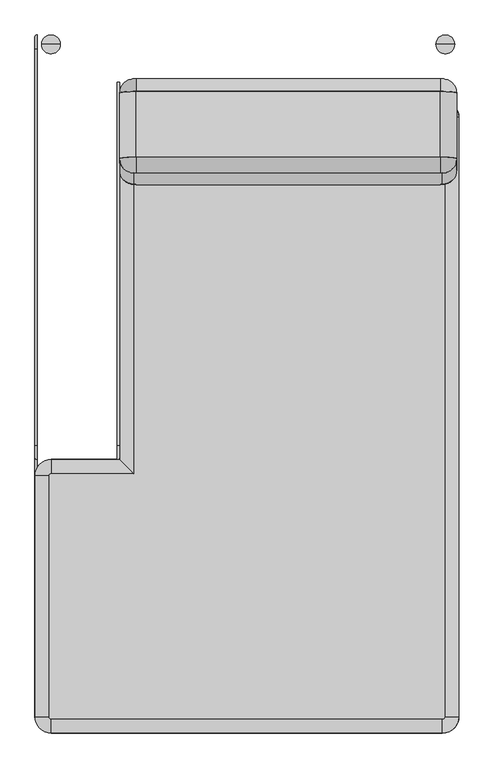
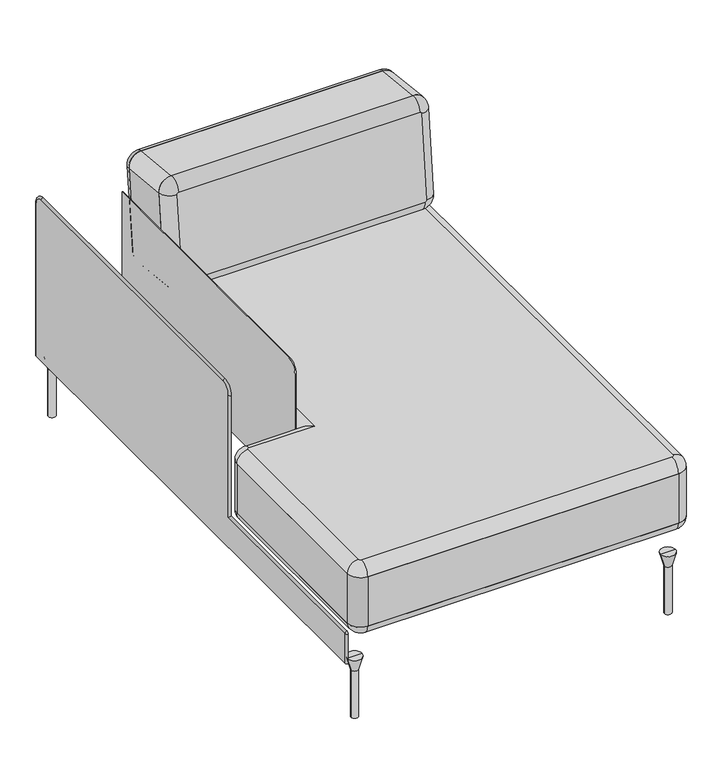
"""IFC4 building model written with IfcOpenShell, lengths in millimetres: furniture geometry, Sofa_Bensen_Neo_NEO15LIT : Sofa_Bensen_Neo_NEO15LIT."""

from ifc_helpers import new_model, si_unit, point, frame, frame_2d, origin, place, context, project, spatial, polyline, circle_curve, ellipse_curve, trimmed, segment, composite_curve, outline, extrude, source, transform, mapped, element, save
from ifc_brep_helpers import plane_surface, cylinder_surface, revolved_surface, advanced_brep


def furniture_818bd36a(model_context):
    return source(origin(), model_context, "Body", "SolidModel", [
        advanced_brep(
        [(-240.0000001, -479.9987249, 259.4004127), (-270.0000001, -449.9987249, 289.4004127), (-270.0000001, 275.0012751, 289.4004127), (-240.0000001, 275.0012751, 259.4004127), (-420.0000001, -994.9987249, 259.4004127), (-450.0000001, -994.9987249, 289.4004127), (-450.0000001, -484.9987249, 289.4004127), (-420.0000001, -484.9987249, 259.4004127), (-415.0000001, -449.9987249, 289.4004127), (-415.0000001, -479.9987249, 259.4004127), (419.9999999, 275.0012751, 259.4004127), (449.9999999, 275.0012751, 289.4004127), (449.9999999, -994.9987249, 289.4004127), (419.9999999, -994.9987249, 259.4004127), (-235.0000001, 310.0012751, 289.4004127), (-235.0000001, 280.0012751, 259.4004127), (414.9999999, 310.0012751, 289.4004127), (414.9999999, 280.0012751, 259.4004127), (414.9999999, -1029.9987249, 289.4004127), (414.9999999, -999.9987249, 259.4004127), (-415.0000001, -1029.9987249, 289.4004127), (-415.0000001, -999.9987249, 259.4004127)],
        [
            (0, 1, ellipse_curve(frame((-240.0000001, -479.9987249, 289.4004127), z_axis=(0.7071067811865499, 0.707106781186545, 0.0), x_axis=(0.7071067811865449, -0.70710678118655, 0.0)), 42.4264069, 30.0)),
            (1, 2),
            (2, 3, circle_curve(frame((-240.0000001, 275.0012751, 289.4004127), z_axis=(0.0, -1.0, 0.0), x_axis=(-1.0, 0.0, 0.0)), 30.0)),
            (3, 0),
            (4, 5, circle_curve(frame((-420.0000001, -994.9987249, 289.4004127), z_axis=(0.0, 1.0, 0.0), x_axis=(-1.0, 0.0, 0.0)), 30.0)),
            (5, 6),
            (6, 7, circle_curve(frame((-420.0000001, -484.9987249, 289.4004127), z_axis=(0.0, -1.0, 0.0), x_axis=(-1.0, 0.0, 0.0)), 30.0)),
            (7, 4),
            (6, 8, circle_curve(frame((-415.0000001, -484.9987249, 289.4004127), z_axis=(0.0, 0.0, -1.0), x_axis=(-1.0, 0.0, 0.0)), 35.0)),
            (8, 9, circle_curve(frame((-415.0000001, -479.9987249, 289.4004127), z_axis=(-1.0, 0.0, 0.0), x_axis=(0.0, 1.0, 0.0)), 30.0)),
            (9, 7, circle_curve(frame((-415.0000001, -484.9987249, 259.4004127), z_axis=(0.0, 0.0, 1.0), x_axis=(-1.0, 0.0, 0.0)), 5.0)),
            (0, 9),
            (8, 1),
            (10, 11, circle_curve(frame((419.9999999, 275.0012751, 289.4004127), z_axis=(0.0, -1.0, 0.0), x_axis=(1.0, 0.0, 0.0)), 30.0)),
            (11, 12),
            (12, 13, circle_curve(frame((419.9999999, -994.9987249, 289.4004127), z_axis=(0.0, 1.0, 0.0), x_axis=(1.0, 0.0, 0.0)), 30.0)),
            (13, 10),
            (2, 14, circle_curve(frame((-235.0000001, 275.0012751, 289.4004127), z_axis=(0.0, 0.0, -1.0), x_axis=(-1.0, 0.0, 0.0)), 35.0)),
            (14, 15, circle_curve(frame((-235.0000001, 280.0012751, 289.4004127), z_axis=(-1.0, 0.0, 0.0), x_axis=(0.0, 1.0, 0.0)), 30.0)),
            (15, 3, circle_curve(frame((-235.0000001, 275.0012751, 259.4004127), z_axis=(0.0, 0.0, 1.0), x_axis=(-1.0, 0.0, 0.0)), 5.0)),
            (14, 16),
            (16, 17, circle_curve(frame((414.9999999, 280.0012751, 289.4004127), z_axis=(-1.0, 0.0, 0.0), x_axis=(0.0, 1.0, 0.0)), 30.0)),
            (17, 15),
            (10, 17, circle_curve(frame((414.9999999, 275.0012751, 259.4004127), z_axis=(0.0, 0.0, 1.0), x_axis=(0.0, 1.0, 0.0)), 5.0)),
            (16, 11, circle_curve(frame((414.9999999, 275.0012751, 289.4004127), z_axis=(0.0, 0.0, -1.0), x_axis=(0.0, 1.0, 0.0)), 35.0)),
            (12, 18, circle_curve(frame((414.9999999, -994.9987249, 289.4004127), z_axis=(0.0, 0.0, -1.0), x_axis=(1.0, 0.0, 0.0)), 35.0)),
            (18, 19, circle_curve(frame((414.9999999, -999.9987249, 289.4004127), z_axis=(1.0, 0.0, 0.0), x_axis=(0.0, -1.0, 0.0)), 30.0)),
            (19, 13, circle_curve(frame((414.9999999, -994.9987249, 259.4004127), z_axis=(0.0, 0.0, 1.0), x_axis=(1.0, 0.0, 0.0)), 5.0)),
            (18, 20),
            (20, 21, circle_curve(frame((-415.0000001, -999.9987249, 289.4004127), z_axis=(1.0, 0.0, 0.0), x_axis=(0.0, -1.0, 0.0)), 30.0)),
            (21, 19),
            (4, 21, circle_curve(frame((-415.0000001, -994.9987249, 259.4004127), z_axis=(0.0, 0.0, 1.0), x_axis=(0.0, -1.0, 0.0)), 5.0)),
            (20, 5, circle_curve(frame((-415.0000001, -994.9987249, 289.4004127), z_axis=(0.0, 0.0, -1.0), x_axis=(0.0, -1.0, 0.0)), 35.0)),
        ],
        [
            cylinder_surface(frame((-240.0000001, -449.9987249, 289.4004127), z_axis=(0.0, -1.0, 0.0), x_axis=(-1.0, 0.0, 0.0)), 30.0),
            cylinder_surface(frame((-420.0000001, -994.9987249, 289.4004127), z_axis=(0.0, -1.0, 0.0), x_axis=(-1.0, 0.0, 0.0)), 30.0),
            revolved_surface(trimmed(ellipse_curve(frame((-420.0000001, -484.9987249, 289.4004127), z_axis=(0.0, -1.0, 0.0), x_axis=(-1.0, 0.0, 0.0)), 30.0, 30.0), [point((-450.0000001, -484.9987249, 289.4004127))], [point((-420.0000001, -484.9987249, 259.4004127))], True, "CARTESIAN"), (-415.0000001, -484.9987249, 459.4004127), (0.0, 0.0, -1.0)),
            cylinder_surface(frame((-415.0000001, -479.9987249, 289.4004127), z_axis=(-1.0, 0.0, 0.0), x_axis=(0.0, 1.0, 0.0)), 30.0),
            cylinder_surface(frame((419.9999999, 275.0012751, 289.4004127), z_axis=(0.0, 1.0, 0.0), x_axis=(1.0, 0.0, 0.0)), 30.0),
            revolved_surface(trimmed(ellipse_curve(frame((-240.0000001, 275.0012751, 289.4004127), z_axis=(0.0, -1.0, 0.0), x_axis=(-1.0, 0.0, 0.0)), 30.0, 30.0), [point((-270.0000001, 275.0012751, 289.4004127))], [point((-240.0000001, 275.0012751, 259.4004127))], True, "CARTESIAN"), (-235.0000001, 275.0012751, 459.4004127), (0.0, 0.0, -1.0)),
            cylinder_surface(frame((-235.0000001, 280.0012751, 289.4004127), z_axis=(-1.0, 0.0, 0.0), x_axis=(0.0, 1.0, 0.0)), 30.0),
            revolved_surface(trimmed(ellipse_curve(frame((414.9999999, 280.0012751, 289.4004127), z_axis=(-1.0, 0.0, 0.0), x_axis=(0.0, 1.0, 0.0)), 30.0, 30.0), [point((414.9999999, 310.0012751, 289.4004127))], [point((414.9999999, 280.0012751, 259.4004127))], True, "CARTESIAN"), (414.9999999, 275.0012751, 459.4004127), (0.0, 0.0, -1.0)),
            revolved_surface(trimmed(ellipse_curve(frame((419.9999999, -994.9987249, 289.4004127), z_axis=(0.0, 1.0, 0.0), x_axis=(1.0, 0.0, 0.0)), 30.0, 30.0), [point((449.9999999, -994.9987249, 289.4004127))], [point((419.9999999, -994.9987249, 259.4004127))], True, "CARTESIAN"), (414.9999999, -994.9987249, 459.4004127), (0.0, 0.0, -1.0)),
            cylinder_surface(frame((414.9999999, -999.9987249, 289.4004127), z_axis=(1.0, 0.0, 0.0), x_axis=(0.0, -1.0, 0.0)), 30.0),
            revolved_surface(trimmed(ellipse_curve(frame((-415.0000001, -999.9987249, 289.4004127), z_axis=(1.0, 0.0, 0.0), x_axis=(0.0, -1.0, 0.0)), 30.0, 30.0), [point((-415.0000001, -1029.9987249, 289.4004127))], [point((-415.0000001, -999.9987249, 259.4004127))], True, "CARTESIAN"), (-415.0000001, -994.9987249, 459.4004127), (0.0, 0.0, -1.0)),
            plane_surface(frame((-415.0000001, -994.9987249, 289.4004127), z_axis=(0.0, 0.0, 1.0), x_axis=(0.0, -1.0, 0.0))),
            plane_surface(frame((-235.0000001, 270.0012751, 259.4004127), z_axis=(0.0, 0.0, -1.0), x_axis=(-1.0, 0.0, 0.0))),
        ],
        [
            (0, [[1, 2, 3, 4]]),
            (1, [[5, 6, 7, 8]]),
            (2, [[-7, 9, 10, 11]]),
            (3, [[-1, 12, -10, 13]]),
            (4, [[14, 15, 16, 17]]),
            (5, [[-3, 18, 19, 20]]),
            (6, [[-19, 21, 22, 23]]),
            (7, [[-14, 24, -22, 25]]),
            (8, [[-16, 26, 27, 28]]),
            (9, [[-27, 29, 30, 31]]),
            (10, [[-5, 32, -30, 33]]),
            (11, [[-2, -13, -9, -6, -33, -29, -26, -15, -25, -21, -18]]),
            (12, [[-4, -20, -23, -24, -17, -28, -31, -32, -8, -11, -12]]),
        ],
    ),
        advanced_brep(
        [(-270.0000001, -449.9987249, 429.4004127), (-240.0000001, -479.9987249, 459.4004127), (-240.0000001, 275.0012751, 459.4004127), (-270.0000001, 275.0012751, 429.4004127), (-415.0000001, -479.9987249, 459.4004127), (-420.0000001, -484.9987249, 459.4004127), (-420.0000001, -994.9987249, 459.4004127), (-415.0000001, -999.9987249, 459.4004127), (414.9999999, -999.9987249, 459.4004127), (419.9999999, -994.9987249, 459.4004127), (419.9999999, 275.0012751, 459.4004127), (414.9999999, 280.0012751, 459.4004127), (-235.0000001, 280.0012751, 459.4004127), (-450.0000001, -994.9987249, 429.4004127), (-450.0000001, -484.9987249, 429.4004127), (-415.0000001, -449.9987249, 429.4004127), (449.9999999, 275.0012751, 429.4004127), (449.9999999, -994.9987249, 429.4004127), (-235.0000001, 310.0012751, 429.4004127), (414.9999999, 310.0012751, 429.4004127), (414.9999999, -1029.9987249, 429.4004127), (-415.0000001, -1029.9987249, 429.4004127)],
        [
            (0, 1, ellipse_curve(frame((-240.0000001, -479.9987249, 429.4004127), z_axis=(0.7071067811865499, 0.707106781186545, 0.0), x_axis=(0.7071067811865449, -0.70710678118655, 0.0)), 42.4264069, 30.0)),
            (1, 2),
            (2, 3, circle_curve(frame((-240.0000001, 275.0012751, 429.4004127), z_axis=(0.0, -1.0, 0.0), x_axis=(-1.0, 0.0, 0.0)), 30.0)),
            (3, 0),
            (1, 4),
            (4, 5, circle_curve(frame((-415.0000001, -484.9987249, 459.4004127), z_axis=(0.0, 0.0, 1.0), x_axis=(-1.0, 0.0, 0.0)), 5.0)),
            (5, 6),
            (6, 7, circle_curve(frame((-415.0000001, -994.9987249, 459.4004127), z_axis=(0.0, 0.0, 1.0), x_axis=(0.0, -1.0, 0.0)), 5.0)),
            (7, 8),
            (8, 9, circle_curve(frame((414.9999999, -994.9987249, 459.4004127), z_axis=(0.0, 0.0, 1.0), x_axis=(1.0, 0.0, 0.0)), 5.0)),
            (9, 10),
            (10, 11, circle_curve(frame((414.9999999, 275.0012751, 459.4004127), z_axis=(0.0, 0.0, 1.0), x_axis=(0.0, 1.0, 0.0)), 5.0)),
            (11, 12),
            (12, 2, circle_curve(frame((-235.0000001, 275.0012751, 459.4004127), z_axis=(0.0, 0.0, 1.0), x_axis=(-1.0, 0.0, 0.0)), 5.0)),
            (13, 6, circle_curve(frame((-420.0000001, -994.9987249, 429.4004127), z_axis=(0.0, 1.0, 0.0), x_axis=(-1.0, 0.0, 0.0)), 30.0)),
            (5, 14, circle_curve(frame((-420.0000001, -484.9987249, 429.4004127), z_axis=(0.0, -1.0, 0.0), x_axis=(-1.0, 0.0, 0.0)), 30.0)),
            (14, 13),
            (4, 15, circle_curve(frame((-415.0000001, -479.9987249, 429.4004127), z_axis=(-1.0, 0.0, 0.0), x_axis=(0.0, 1.0, 0.0)), 30.0)),
            (15, 14, circle_curve(frame((-415.0000001, -484.9987249, 429.4004127), z_axis=(0.0, 0.0, 1.0), x_axis=(-1.0, 0.0, 0.0)), 35.0)),
            (0, 15),
            (16, 10, circle_curve(frame((419.9999999, 275.0012751, 429.4004127), z_axis=(0.0, -1.0, 0.0), x_axis=(1.0, 0.0, 0.0)), 30.0)),
            (9, 17, circle_curve(frame((419.9999999, -994.9987249, 429.4004127), z_axis=(0.0, 1.0, 0.0), x_axis=(1.0, 0.0, 0.0)), 30.0)),
            (17, 16),
            (12, 18, circle_curve(frame((-235.0000001, 280.0012751, 429.4004127), z_axis=(-1.0, 0.0, 0.0), x_axis=(0.0, 1.0, 0.0)), 30.0)),
            (18, 3, circle_curve(frame((-235.0000001, 275.0012751, 429.4004127), z_axis=(0.0, 0.0, 1.0), x_axis=(-1.0, 0.0, 0.0)), 35.0)),
            (11, 19, circle_curve(frame((414.9999999, 280.0012751, 429.4004127), z_axis=(-1.0, 0.0, 0.0), x_axis=(0.0, 1.0, 0.0)), 30.0)),
            (19, 18),
            (16, 19, circle_curve(frame((414.9999999, 275.0012751, 429.4004127), z_axis=(0.0, 0.0, 1.0), x_axis=(0.0, 1.0, 0.0)), 35.0)),
            (8, 20, circle_curve(frame((414.9999999, -999.9987249, 429.4004127), z_axis=(1.0, 0.0, 0.0), x_axis=(0.0, -1.0, 0.0)), 30.0)),
            (20, 17, circle_curve(frame((414.9999999, -994.9987249, 429.4004127), z_axis=(0.0, 0.0, 1.0), x_axis=(1.0, 0.0, 0.0)), 35.0)),
            (7, 21, circle_curve(frame((-415.0000001, -999.9987249, 429.4004127), z_axis=(1.0, 0.0, 0.0), x_axis=(0.0, -1.0, 0.0)), 30.0)),
            (21, 20),
            (13, 21, circle_curve(frame((-415.0000001, -994.9987249, 429.4004127), z_axis=(0.0, 0.0, 1.0), x_axis=(0.0, -1.0, 0.0)), 35.0)),
        ],
        [
            cylinder_surface(frame((-240.0000001, -449.9987249, 429.4004127), z_axis=(0.0, -1.0, 0.0), x_axis=(-1.0, 0.0, 0.0)), 30.0),
            plane_surface(frame((-230.0000001, 275.0012751, 459.4004127), z_axis=(0.0, 0.0, 1.0), x_axis=(0.0, 1.0, 0.0))),
            cylinder_surface(frame((-420.0000001, -994.9987249, 429.4004127), z_axis=(0.0, -1.0, 0.0), x_axis=(-1.0, 0.0, 0.0)), 30.0),
            revolved_surface(trimmed(ellipse_curve(frame((-420.0000001, -484.9987249, 429.4004127), z_axis=(0.0, -1.0, 0.0), x_axis=(-1.0, 0.0, 0.0)), 30.0, 30.0), [point((-420.0000001, -484.9987249, 459.4004127))], [point((-450.0000001, -484.9987249, 429.4004127))], True, "CARTESIAN"), (-415.0000001, -484.9987249, 259.4004127), (0.0, 0.0, -1.0)),
            cylinder_surface(frame((-415.0000001, -479.9987249, 429.4004127), z_axis=(-1.0, 0.0, 0.0), x_axis=(0.0, 1.0, 0.0)), 30.0),
            cylinder_surface(frame((419.9999999, 275.0012751, 429.4004127), z_axis=(0.0, 1.0, 0.0), x_axis=(1.0, 0.0, 0.0)), 30.0),
            revolved_surface(trimmed(ellipse_curve(frame((-240.0000001, 275.0012751, 429.4004127), z_axis=(0.0, -1.0, 0.0), x_axis=(-1.0, 0.0, 0.0)), 30.0, 30.0), [point((-240.0000001, 275.0012751, 459.4004127))], [point((-270.0000001, 275.0012751, 429.4004127))], True, "CARTESIAN"), (-235.0000001, 275.0012751, 259.4004127), (0.0, 0.0, -1.0)),
            cylinder_surface(frame((-235.0000001, 280.0012751, 429.4004127), z_axis=(-1.0, 0.0, 0.0), x_axis=(0.0, 1.0, 0.0)), 30.0),
            revolved_surface(trimmed(ellipse_curve(frame((414.9999999, 280.0012751, 429.4004127), z_axis=(-1.0, 0.0, 0.0), x_axis=(0.0, 1.0, 0.0)), 30.0, 30.0), [point((414.9999999, 280.0012751, 459.4004127))], [point((414.9999999, 310.0012751, 429.4004127))], True, "CARTESIAN"), (414.9999999, 275.0012751, 259.4004127), (0.0, 0.0, -1.0)),
            revolved_surface(trimmed(ellipse_curve(frame((419.9999999, -994.9987249, 429.4004127), z_axis=(0.0, 1.0, 0.0), x_axis=(1.0, 0.0, 0.0)), 30.0, 30.0), [point((419.9999999, -994.9987249, 459.4004127))], [point((449.9999999, -994.9987249, 429.4004127))], True, "CARTESIAN"), (414.9999999, -994.9987249, 259.4004127), (0.0, 0.0, -1.0)),
            cylinder_surface(frame((414.9999999, -999.9987249, 429.4004127), z_axis=(1.0, 0.0, 0.0), x_axis=(0.0, -1.0, 0.0)), 30.0),
            revolved_surface(trimmed(ellipse_curve(frame((-415.0000001, -999.9987249, 429.4004127), z_axis=(1.0, 0.0, 0.0), x_axis=(0.0, -1.0, 0.0)), 30.0, 30.0), [point((-415.0000001, -999.9987249, 459.4004127))], [point((-415.0000001, -1029.9987249, 429.4004127))], True, "CARTESIAN"), (-415.0000001, -994.9987249, 259.4004127), (0.0, 0.0, -1.0)),
            plane_surface(frame((-415.0000001, -994.9987249, 429.4004127), z_axis=(0.0, 0.0, -1.0), x_axis=(0.0, -1.0, 0.0))),
        ],
        [
            (0, [[1, 2, 3, 4]]),
            (1, [[-2, 5, 6, 7, 8, 9, 10, 11, 12, 13, 14]]),
            (2, [[15, -7, 16, 17]]),
            (3, [[-16, -6, 18, 19]]),
            (4, [[-1, 20, -18, -5]]),
            (5, [[21, -11, 22, 23]]),
            (6, [[-3, -14, 24, 25]]),
            (7, [[-24, -13, 26, 27]]),
            (8, [[-21, 28, -26, -12]]),
            (9, [[-22, -10, 29, 30]]),
            (10, [[-29, -9, 31, 32]]),
            (11, [[-15, 33, -31, -8]]),
            (12, [[-4, -25, -27, -28, -23, -30, -32, -33, -17, -19, -20]]),
        ],
    ),
        extrude(outline(composite_curve([segment(polyline([(-235.0000001, 310.0012751), (414.9999999, 310.0012751)]), True, "CONTINUOUS"), segment(trimmed(circle_curve(frame_2d((414.9999999, 275.0012751)), 35.0), [point((414.9999999, 310.0012751))], [point((449.9999999, 275.0012751))], False, "CARTESIAN"), True, "CONTINUOUS"), segment(polyline([(449.9999999, 275.0012751), (449.9999999, -994.9987249)]), True, "CONTINUOUS"), segment(trimmed(circle_curve(frame_2d((414.9999999, -994.9987249)), 35.0), [point((449.9999999, -994.9987249))], [point((414.9999999, -1029.9987249))], False, "CARTESIAN"), True, "CONTINUOUS"), segment(polyline([(414.9999999, -1029.9987249), (-415.0000001, -1029.9987249)]), True, "CONTINUOUS"), segment(trimmed(circle_curve(frame_2d((-415.0000001, -994.9987249)), 35.0), [point((-415.0000001, -1029.9987249))], [point((-450.0000001, -994.9987249))], False, "CARTESIAN"), True, "CONTINUOUS"), segment(polyline([(-450.0000001, -994.9987249), (-450.0000001, -484.9987249)]), True, "CONTINUOUS"), segment(trimmed(circle_curve(frame_2d((-415.0000001, -484.9987249)), 35.0), [point((-450.0000001, -484.9987249))], [point((-415.0000001, -449.9987249))], False, "CARTESIAN"), True, "CONTINUOUS"), segment(polyline([(-415.0000001, -449.9987249), (-270.0000001, -449.9987249), (-270.0000001, 275.0012751)]), True, "CONTINUOUS"), segment(trimmed(circle_curve(frame_2d((-235.0000001, 275.0012751)), 35.0), [point((-270.0000001, 275.0012751))], [point((-235.0000001, 310.0012751))], False, "CARTESIAN"), True, "CONTINUOUS")], self_intersect=False)), frame((0.0, 0.0, 289.4004127), z_axis=(0.0, 0.0, 1.0), x_axis=(1.0, 0.0, 0.0)), (0.0, 0.0, 1.0), 140.0),
        advanced_brep(
        [(421.0275996, -970.0263245, 0.0), (411.1832689, -970.0263245, 0.0), (430.8719303, -970.0263245, 0.0), (401.0551992, -970.0263245, 170.0), (421.0275996, -970.0263245, 170.0), (441.0, -970.0263245, 170.0), (411.1832689, -970.0263245, 133.7982678), (430.8719303, -970.0263245, 133.7982678)],
        [
            (0, 1),
            (1, 2, circle_curve(frame((421.0275996, -970.0263245, 0.0), z_axis=(0.0, 0.0, -1.0), x_axis=(1.0, 0.0, 0.0)), 9.8443307)),
            (2, 0),
            (2, 1, circle_curve(frame((421.0275996, -970.0263245, 0.0), z_axis=(0.0, 0.0, -1.0), x_axis=(1.0, 0.0, 0.0)), 9.8443307)),
            (3, 4),
            (4, 5),
            (5, 3, circle_curve(frame((421.0275996, -970.0263245, 170.0), z_axis=(0.0, 0.0, 1.0), x_axis=(1.0, 0.0, 0.0)), 19.9724004)),
            (3, 5, circle_curve(frame((421.0275996, -970.0263245, 170.0), z_axis=(0.0, 0.0, 1.0), x_axis=(1.0, 0.0, 0.0)), 19.9724004)),
            (6, 3),
            (5, 7),
            (7, 6, circle_curve(frame((421.0275996, -970.0263245, 133.7982678), z_axis=(0.0, 0.0, 1.0), x_axis=(1.0, 0.0, 0.0)), 9.8443307)),
            (6, 7, circle_curve(frame((421.0275996, -970.0263245, 133.7982678), z_axis=(0.0, 0.0, 1.0), x_axis=(1.0, 0.0, 0.0)), 9.8443307)),
            (1, 6),
            (7, 2),
        ],
        [
            plane_surface(frame((421.0275996, -970.0263245, 0.0), z_axis=(0.0, 0.0, -1.0), x_axis=(1.0, 0.0, 0.0))),
            plane_surface(frame((421.0275996, -970.0263245, 170.0), z_axis=(0.0, 0.0, 1.0), x_axis=(1.0, 0.0, 0.0))),
            revolved_surface(polyline([(441.0, -970.0263245, 170.0), (430.8719303, -970.0263245, 133.7982678)]), (421.0275996, -970.0263245, 210.0), (0.0, 0.0, -1.0)),
            cylinder_surface(frame((421.0275996, -970.0263245, 210.0), z_axis=(0.0, 0.0, -1.0), x_axis=(1.0, 0.0, 0.0)), 9.8443307),
        ],
        [
            (0, [[1, 2, 3]]),
            (0, [[-3, 4, -1]]),
            (1, [[5, 6, 7]]),
            (1, [[-6, -5, 8]]),
            (2, [[9, -7, 10, 11]]),
            (2, [[-10, -8, -9, 12]]),
            (3, [[13, -11, 14, -2]]),
            (3, [[-14, -12, -13, -4]]),
        ],
    ),
        advanced_brep(
        [(-416.0275996, -970.0263245, 0.0), (-425.8719303, -970.0263245, 0.0), (-406.1832689, -970.0263245, 0.0), (-396.0551992, -970.0263245, 170.0), (-436.0, -970.0263245, 170.0), (-416.0275996, -970.0263245, 170.0), (-406.1832689, -970.0263245, 133.7982678), (-425.8719303, -970.0263245, 133.7982678)],
        [
            (0, 1),
            (1, 2, circle_curve(frame((-416.0275996, -970.0263245, 0.0), z_axis=(0.0, 0.0, -1.0), x_axis=(-1.0, 0.0, 0.0)), 9.8443307)),
            (2, 0),
            (2, 1, circle_curve(frame((-416.0275996, -970.0263245, 0.0), z_axis=(0.0, 0.0, -1.0), x_axis=(-1.0, 0.0, 0.0)), 9.8443307)),
            (3, 4, circle_curve(frame((-416.0275996, -970.0263245, 170.0), z_axis=(0.0, 0.0, 1.0), x_axis=(-1.0, 0.0, 0.0)), 19.9724004)),
            (4, 5),
            (5, 3),
            (4, 3, circle_curve(frame((-416.0275996, -970.0263245, 170.0), z_axis=(0.0, 0.0, 1.0), x_axis=(-1.0, 0.0, 0.0)), 19.9724004)),
            (6, 7, circle_curve(frame((-416.0275996, -970.0263245, 133.7982678), z_axis=(0.0, 0.0, 1.0), x_axis=(-1.0, 0.0, 0.0)), 9.8443307)),
            (7, 4),
            (3, 6),
            (7, 6, circle_curve(frame((-416.0275996, -970.0263245, 133.7982678), z_axis=(0.0, 0.0, 1.0), x_axis=(-1.0, 0.0, 0.0)), 9.8443307)),
            (1, 7),
            (6, 2),
        ],
        [
            plane_surface(frame((-416.0275996, -970.0263245, 0.0), z_axis=(0.0, 0.0, -1.0), x_axis=(-1.0, 0.0, 0.0))),
            plane_surface(frame((-416.0275996, -970.0263245, 170.0), z_axis=(0.0, 0.0, 1.0), x_axis=(-1.0, 0.0, 0.0))),
            revolved_surface(polyline([(-436.0, -970.0263245, 170.0), (-425.8719303, -970.0263245, 133.7982678)]), (-416.0275996, -970.0263245, 210.0), (0.0, 0.0, -1.0)),
            cylinder_surface(frame((-416.0275996, -970.0263245, 210.0), z_axis=(0.0, 0.0, -1.0), x_axis=(-1.0, 0.0, 0.0)), 9.8443307),
        ],
        [
            (0, [[1, 2, 3]]),
            (0, [[-3, 4, -1]]),
            (1, [[5, 6, 7]]),
            (1, [[8, -7, -6]]),
            (2, [[9, 10, -5, 11]]),
            (2, [[12, -11, -8, -10]]),
            (3, [[-2, 13, -9, 14]]),
            (3, [[-4, -14, -12, -13]]),
        ],
    ),
        advanced_brep(
        [(421.0275996, 430.0263245, 0.0), (430.8719303, 430.0263245, 0.0), (411.1832689, 430.0263245, 0.0), (401.0551992, 430.0263245, 170.0), (441.0, 430.0263245, 170.0), (421.0275996, 430.0263245, 170.0), (411.1832689, 430.0263245, 133.7982678), (430.8719303, 430.0263245, 133.7982678)],
        [
            (0, 1),
            (1, 2, circle_curve(frame((421.0275996, 430.0263245, 0.0), z_axis=(0.0, 0.0, -1.0), x_axis=(1.0, 0.0, 0.0)), 9.8443307)),
            (2, 0),
            (2, 1, circle_curve(frame((421.0275996, 430.0263245, 0.0), z_axis=(0.0, 0.0, -1.0), x_axis=(1.0, 0.0, 0.0)), 9.8443307)),
            (3, 4, circle_curve(frame((421.0275996, 430.0263245, 170.0), z_axis=(0.0, 0.0, 1.0), x_axis=(1.0, 0.0, 0.0)), 19.9724004)),
            (4, 5),
            (5, 3),
            (4, 3, circle_curve(frame((421.0275996, 430.0263245, 170.0), z_axis=(0.0, 0.0, 1.0), x_axis=(1.0, 0.0, 0.0)), 19.9724004)),
            (6, 7, circle_curve(frame((421.0275996, 430.0263245, 133.7982678), z_axis=(0.0, 0.0, 1.0), x_axis=(1.0, 0.0, 0.0)), 9.8443307)),
            (7, 4),
            (3, 6),
            (7, 6, circle_curve(frame((421.0275996, 430.0263245, 133.7982678), z_axis=(0.0, 0.0, 1.0), x_axis=(1.0, 0.0, 0.0)), 9.8443307)),
            (1, 7),
            (6, 2),
        ],
        [
            plane_surface(frame((421.0275996, 430.0263245, 0.0), z_axis=(0.0, 0.0, -1.0), x_axis=(1.0, 0.0, 0.0))),
            plane_surface(frame((421.0275996, 430.0263245, 170.0), z_axis=(0.0, 0.0, 1.0), x_axis=(1.0, 0.0, 0.0))),
            revolved_surface(polyline([(441.0, 430.0263245, 170.0), (430.8719303, 430.0263245, 133.7982678)]), (421.0275996, 430.0263245, 210.0), (0.0, 0.0, -1.0)),
            cylinder_surface(frame((421.0275996, 430.0263245, 210.0), z_axis=(0.0, 0.0, -1.0), x_axis=(1.0, 0.0, 0.0)), 9.8443307),
        ],
        [
            (0, [[1, 2, 3]]),
            (0, [[-3, 4, -1]]),
            (1, [[5, 6, 7]]),
            (1, [[8, -7, -6]]),
            (2, [[9, 10, -5, 11]]),
            (2, [[12, -11, -8, -10]]),
            (3, [[-2, 13, -9, 14]]),
            (3, [[-4, -14, -12, -13]]),
        ],
    ),
        advanced_brep(
        [(-416.0275996, 430.0263245, 0.0), (-406.1832689, 430.0263245, 0.0), (-425.8719303, 430.0263245, 0.0), (-396.0551992, 430.0263245, 170.0), (-416.0275996, 430.0263245, 170.0), (-436.0, 430.0263245, 170.0), (-406.1832689, 430.0263245, 133.7982678), (-425.8719303, 430.0263245, 133.7982678)],
        [
            (0, 1),
            (1, 2, circle_curve(frame((-416.0275996, 430.0263245, 0.0), z_axis=(0.0, 0.0, -1.0), x_axis=(-1.0, 0.0, 0.0)), 9.8443307)),
            (2, 0),
            (2, 1, circle_curve(frame((-416.0275996, 430.0263245, 0.0), z_axis=(0.0, 0.0, -1.0), x_axis=(-1.0, 0.0, 0.0)), 9.8443307)),
            (3, 4),
            (4, 5),
            (5, 3, circle_curve(frame((-416.0275996, 430.0263245, 170.0), z_axis=(0.0, 0.0, 1.0), x_axis=(-1.0, 0.0, 0.0)), 19.9724004)),
            (3, 5, circle_curve(frame((-416.0275996, 430.0263245, 170.0), z_axis=(0.0, 0.0, 1.0), x_axis=(-1.0, 0.0, 0.0)), 19.9724004)),
            (6, 3),
            (5, 7),
            (7, 6, circle_curve(frame((-416.0275996, 430.0263245, 133.7982678), z_axis=(0.0, 0.0, 1.0), x_axis=(-1.0, 0.0, 0.0)), 9.8443307)),
            (6, 7, circle_curve(frame((-416.0275996, 430.0263245, 133.7982678), z_axis=(0.0, 0.0, 1.0), x_axis=(-1.0, 0.0, 0.0)), 9.8443307)),
            (1, 6),
            (7, 2),
        ],
        [
            plane_surface(frame((-416.0275996, 430.0263245, 0.0), z_axis=(0.0, 0.0, -1.0), x_axis=(-1.0, 0.0, 0.0))),
            plane_surface(frame((-416.0275996, 430.0263245, 170.0), z_axis=(0.0, 0.0, 1.0), x_axis=(-1.0, 0.0, 0.0))),
            revolved_surface(polyline([(-436.0, 430.0263245, 170.0), (-425.8719303, 430.0263245, 133.7982678)]), (-416.0275996, 430.0263245, 210.0), (0.0, 0.0, -1.0)),
            cylinder_surface(frame((-416.0275996, 430.0263245, 210.0), z_axis=(0.0, 0.0, -1.0), x_axis=(-1.0, 0.0, 0.0)), 9.8443307),
        ],
        [
            (0, [[1, 2, 3]]),
            (0, [[-3, 4, -1]]),
            (1, [[5, 6, 7]]),
            (1, [[-6, -5, 8]]),
            (2, [[9, -7, 10, 11]]),
            (2, [[-10, -8, -9, 12]]),
            (3, [[13, -11, 14, -2]]),
            (3, [[-14, -12, -13, -4]]),
        ],
    ),
        advanced_brep(
        [(-235.0000001, 330.2036921, 743.2087665), (-270.0000001, 326.5451959, 708.4005002), (-270.0000001, 302.5036494, 479.6604642), (-235.0000001, 298.8451531, 444.8521979), (409.9999999, 298.8451531, 444.8521979), (444.9999999, 302.5036494, 479.6604642), (444.9999999, 326.5451959, 708.4005002), (409.9999999, 330.2036921, 743.2087665), (-240.0000001, 356.3808528, 705.2646463), (-235.0000001, 356.9034951, 710.2372557), (409.9999999, 356.9034951, 710.2372557), (414.9999999, 356.3808528, 705.2646463), (414.9999999, 332.3393062, 476.5246103), (409.9999999, 331.8166639, 471.5520008), (-235.0000001, 331.8166639, 471.5520008), (-240.0000001, 332.3393062, 476.5246103)],
        [
            (0, 1, circle_curve(frame((-235.0000001, 326.5451959, 708.4005002), z_axis=(0.0, -0.9945218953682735, 0.10452846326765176), x_axis=(-1.0, 0.0, 0.0)), 35.0)),
            (1, 2),
            (2, 3, circle_curve(frame((-235.0000001, 302.5036494, 479.6604642), z_axis=(0.0, -0.9945218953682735, 0.10452846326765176), x_axis=(0.0, -0.10452846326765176, -0.9945218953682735)), 35.0)),
            (3, 4),
            (4, 5, circle_curve(frame((409.9999999, 302.5036494, 479.6604642), z_axis=(0.0, -0.9945218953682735, 0.10452846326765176), x_axis=(1.0, 0.0, 0.0)), 35.0)),
            (5, 6),
            (6, 7, circle_curve(frame((409.9999999, 326.5451959, 708.4005002), z_axis=(0.0, -0.9945218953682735, 0.10452846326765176), x_axis=(0.0, 0.10452846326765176, 0.9945218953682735)), 35.0)),
            (7, 0),
            (8, 9, circle_curve(frame((-235.0000001, 356.3808528, 705.2646463), z_axis=(0.0, 0.9945218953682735, -0.10452846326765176), x_axis=(-1.0, 0.0, 0.0)), 5.0)),
            (9, 10),
            (10, 11, circle_curve(frame((409.9999999, 356.3808528, 705.2646463), z_axis=(0.0, 0.9945218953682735, -0.10452846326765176), x_axis=(0.0, 0.10452846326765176, 0.9945218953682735)), 5.0)),
            (11, 12),
            (12, 13, circle_curve(frame((409.9999999, 332.3393062, 476.5246103), z_axis=(0.0, 0.9945218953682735, -0.10452846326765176), x_axis=(1.0, 0.0, 0.0)), 5.0)),
            (13, 14),
            (14, 15, circle_curve(frame((-235.0000001, 332.3393062, 476.5246103), z_axis=(0.0, 0.9945218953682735, -0.10452846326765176), x_axis=(0.0, -0.10452846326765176, -0.9945218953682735)), 5.0)),
            (15, 8),
            (8, 1, circle_curve(frame((-240.0000001, 326.5451959, 708.4005002), z_axis=(0.0, 0.10452846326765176, 0.9945218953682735), x_axis=(-1.0, 0.0, 0.0)), 30.0)),
            (0, 9, circle_curve(frame((-235.0000001, 327.0678382, 713.3731096), z_axis=(-1.0, 0.0, 0.0), x_axis=(0.0, 0.10452846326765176, 0.9945218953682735)), 30.0)),
            (7, 10, circle_curve(frame((409.9999999, 327.0678382, 713.3731096), z_axis=(-1.0, 0.0, 0.0), x_axis=(0.0, 0.10452846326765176, 0.9945218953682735)), 30.0)),
            (6, 11, circle_curve(frame((414.9999999, 326.5451959, 708.4005002), z_axis=(0.0, 0.10452846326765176, 0.9945218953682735), x_axis=(1.0, 0.0, 0.0)), 30.0)),
            (5, 12, circle_curve(frame((414.9999999, 302.5036494, 479.6604642), z_axis=(0.0, 0.10452846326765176, 0.9945218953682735), x_axis=(1.0, 0.0, 0.0)), 30.0)),
            (4, 13, circle_curve(frame((409.9999999, 301.981007, 474.6878547), z_axis=(1.0, 0.0, 0.0), x_axis=(0.0, -0.10452846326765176, -0.9945218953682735)), 30.0)),
            (3, 14, circle_curve(frame((-235.0000001, 301.981007, 474.6878547), z_axis=(1.0, 0.0, 0.0), x_axis=(0.0, -0.10452846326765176, -0.9945218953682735)), 30.0)),
            (2, 15, circle_curve(frame((-240.0000001, 302.5036494, 479.6604642), z_axis=(0.0, -0.10452846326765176, -0.9945218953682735), x_axis=(-1.0, 0.0, 0.0)), 30.0)),
        ],
        [
            plane_surface(frame((-235.0000001, 303.0262917, 484.6330737), z_axis=(0.0, -0.9945218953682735, 0.10452846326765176), x_axis=(-1.0, 0.0, 0.0))),
            plane_surface(frame((-235.0000001, 332.8619485, 481.4972198), z_axis=(0.0, 0.9945218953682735, -0.10452846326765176), x_axis=(1.0, 0.0, 0.0))),
            revolved_surface(trimmed(ellipse_curve(frame((-240.0000001, 326.5451959, 708.4005002), z_axis=(0.0, -0.10452846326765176, -0.9945218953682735), x_axis=(-1.0, 0.0, 0.0)), 30.0, 30.0), [point((-270.0000001, 326.5451959, 708.4005002))], [point((-240.0000001, 356.3808528, 705.2646463))], True, "CARTESIAN"), (-235.0000001, 326.5451959, 708.4005002), (0.0, 0.9945218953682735, -0.10452846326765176)),
            cylinder_surface(frame((-235.0000001, 327.0678382, 713.3731096), z_axis=(-1.0, 0.0, 0.0), x_axis=(0.0, 0.10452846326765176, 0.9945218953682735)), 30.0),
            revolved_surface(trimmed(ellipse_curve(frame((409.9999999, 327.0678382, 713.3731096), z_axis=(-1.0, 0.0, 0.0), x_axis=(0.0, 0.10452846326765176, 0.9945218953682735)), 30.0, 30.0), [point((409.9999999, 330.2036921, 743.2087665))], [point((409.9999999, 356.9034951, 710.2372557))], True, "CARTESIAN"), (409.9999999, 326.5451959, 708.4005002), (0.0, 0.9945218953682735, -0.10452846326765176)),
            cylinder_surface(frame((414.9999999, 326.5451959, 708.4005002), z_axis=(0.0, 0.10452846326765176, 0.9945218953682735), x_axis=(1.0, 0.0, 0.0)), 30.0),
            revolved_surface(trimmed(ellipse_curve(frame((414.9999999, 302.5036494, 479.6604642), z_axis=(0.0, 0.10452846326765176, 0.9945218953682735), x_axis=(1.0, 0.0, 0.0)), 30.0, 30.0), [point((444.9999999, 302.5036494, 479.6604642))], [point((414.9999999, 332.3393062, 476.5246103))], True, "CARTESIAN"), (409.9999999, 302.5036494, 479.6604642), (0.0, 0.9945218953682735, -0.10452846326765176)),
            cylinder_surface(frame((409.9999999, 301.981007, 474.6878547), z_axis=(1.0, 0.0, 0.0), x_axis=(0.0, -0.10452846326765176, -0.9945218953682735)), 30.0),
            revolved_surface(trimmed(ellipse_curve(frame((-235.0000001, 301.981007, 474.6878547), z_axis=(1.0, 0.0, 0.0), x_axis=(0.0, -0.10452846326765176, -0.9945218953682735)), 30.0, 30.0), [point((-235.0000001, 298.8451531, 444.8521979))], [point((-235.0000001, 331.8166639, 471.5520008))], True, "CARTESIAN"), (-235.0000001, 302.5036494, 479.6604642), (0.0, 0.9945218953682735, -0.10452846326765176)),
            cylinder_surface(frame((-240.0000001, 302.5036494, 479.6604642), z_axis=(0.0, -0.10452846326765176, -0.9945218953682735), x_axis=(-1.0, 0.0, 0.0)), 30.0),
        ],
        [
            (0, [[1, 2, 3, 4, 5, 6, 7, 8]]),
            (1, [[9, 10, 11, 12, 13, 14, 15, 16]]),
            (2, [[17, -1, 18, -9]]),
            (3, [[-18, -8, 19, -10]]),
            (4, [[-19, -7, 20, -11]]),
            (5, [[-20, -6, 21, -12]]),
            (6, [[-21, -5, 22, -13]]),
            (7, [[-22, -4, 23, -14]]),
            (8, [[-23, -3, 24, -15]]),
            (9, [[-17, -16, -24, -2]]),
        ],
    ),
        advanced_brep(
        [(-235.0000001, 190.9706268, 757.8427514), (-270.0000001, 187.3121306, 723.034485), (-240.0000001, 157.4764737, 726.1703389), (-235.0000001, 157.999116, 731.1429484), (409.9999999, 157.999116, 731.1429484), (409.9999999, 190.9706268, 757.8427514), (414.9999999, 157.4764737, 726.1703389), (444.9999999, 187.3121306, 723.034485), (414.9999999, 133.4349271, 497.430303), (444.9999999, 163.270584, 494.2944491), (409.9999999, 132.9122848, 492.4576935), (409.9999999, 159.6120878, 459.4861827), (-235.0000001, 132.9122848, 492.4576935), (-235.0000001, 159.6120878, 459.4861827), (-240.0000001, 133.4349271, 497.430303), (-270.0000001, 163.270584, 494.2944491)],
        [
            (0, 1, circle_curve(frame((-235.0000001, 187.3121306, 723.034485), z_axis=(0.0, -0.9945218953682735, 0.10452846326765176), x_axis=(-1.0, 0.0, 0.0)), 35.0)),
            (1, 2, circle_curve(frame((-240.0000001, 187.3121306, 723.034485), z_axis=(0.0, 0.10452846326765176, 0.9945218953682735), x_axis=(-1.0, 0.0, 0.0)), 30.0)),
            (2, 3, circle_curve(frame((-235.0000001, 157.4764737, 726.1703389), z_axis=(0.0, 0.9945218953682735, -0.10452846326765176), x_axis=(-1.0, 0.0, 0.0)), 5.0)),
            (3, 0, circle_curve(frame((-235.0000001, 187.8347729, 728.0070945), z_axis=(-1.0, 0.0, 0.0), x_axis=(0.0, 0.10452846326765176, 0.9945218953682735)), 30.0)),
            (3, 4),
            (4, 5, circle_curve(frame((409.9999999, 187.8347729, 728.0070945), z_axis=(-1.0, 0.0, 0.0), x_axis=(0.0, 0.10452846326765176, 0.9945218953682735)), 30.0)),
            (5, 0),
            (4, 6, circle_curve(frame((409.9999999, 157.4764737, 726.1703389), z_axis=(0.0, 0.9945218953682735, -0.10452846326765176), x_axis=(0.0, 0.10452846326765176, 0.9945218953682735)), 5.0)),
            (6, 7, circle_curve(frame((414.9999999, 187.3121306, 723.034485), z_axis=(0.0, 0.10452846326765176, 0.9945218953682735), x_axis=(1.0, 0.0, 0.0)), 30.0)),
            (7, 5, circle_curve(frame((409.9999999, 187.3121306, 723.034485), z_axis=(0.0, -0.9945218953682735, 0.10452846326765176), x_axis=(0.0, 0.10452846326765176, 0.9945218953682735)), 35.0)),
            (6, 8),
            (8, 9, circle_curve(frame((414.9999999, 163.270584, 494.2944491), z_axis=(0.0, 0.10452846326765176, 0.9945218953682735), x_axis=(1.0, 0.0, 0.0)), 30.0)),
            (9, 7),
            (8, 10, circle_curve(frame((409.9999999, 133.4349271, 497.430303), z_axis=(0.0, 0.9945218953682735, -0.10452846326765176), x_axis=(1.0, 0.0, 0.0)), 5.0)),
            (10, 11, circle_curve(frame((409.9999999, 162.7479417, 489.3218396), z_axis=(1.0, 0.0, 0.0), x_axis=(0.0, -0.10452846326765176, -0.9945218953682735)), 30.0)),
            (11, 9, circle_curve(frame((409.9999999, 163.270584, 494.2944491), z_axis=(0.0, -0.9945218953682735, 0.10452846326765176), x_axis=(1.0, 0.0, 0.0)), 35.0)),
            (10, 12),
            (12, 13, circle_curve(frame((-235.0000001, 162.7479417, 489.3218396), z_axis=(1.0, 0.0, 0.0), x_axis=(0.0, -0.10452846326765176, -0.9945218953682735)), 30.0)),
            (13, 11),
            (12, 14, circle_curve(frame((-235.0000001, 133.4349271, 497.430303), z_axis=(0.0, 0.9945218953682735, -0.10452846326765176), x_axis=(0.0, -0.10452846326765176, -0.9945218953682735)), 5.0)),
            (14, 15, circle_curve(frame((-240.0000001, 163.270584, 494.2944491), z_axis=(0.0, -0.10452846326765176, -0.9945218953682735), x_axis=(-1.0, 0.0, 0.0)), 30.0)),
            (15, 13, circle_curve(frame((-235.0000001, 163.270584, 494.2944491), z_axis=(0.0, -0.9945218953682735, 0.10452846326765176), x_axis=(0.0, -0.10452846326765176, -0.9945218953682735)), 35.0)),
            (1, 15),
            (14, 2),
        ],
        [
            revolved_surface(trimmed(ellipse_curve(frame((-240.0000001, 187.3121306, 723.034485), z_axis=(0.0, -0.10452846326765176, -0.9945218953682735), x_axis=(-1.0, 0.0, 0.0)), 30.0, 30.0), [point((-240.0000001, 157.4764737, 726.1703389))], [point((-270.0000001, 187.3121306, 723.034485))], True, "CARTESIAN"), (-235.0000001, 356.3808528, 705.2646463), (0.0, 0.9945218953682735, -0.10452846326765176)),
            cylinder_surface(frame((-235.0000001, 187.8347729, 728.0070945), z_axis=(-1.0, 0.0, 0.0), x_axis=(0.0, 0.10452846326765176, 0.9945218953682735)), 30.0),
            revolved_surface(trimmed(ellipse_curve(frame((409.9999999, 187.8347729, 728.0070945), z_axis=(-1.0, 0.0, 0.0), x_axis=(0.0, 0.10452846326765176, 0.9945218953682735)), 30.0, 30.0), [point((409.9999999, 157.999116, 731.1429484))], [point((409.9999999, 190.9706268, 757.8427514))], True, "CARTESIAN"), (409.9999999, 356.3808528, 705.2646463), (0.0, 0.9945218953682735, -0.10452846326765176)),
            cylinder_surface(frame((414.9999999, 187.3121306, 723.034485), z_axis=(0.0, 0.10452846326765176, 0.9945218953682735), x_axis=(1.0, 0.0, 0.0)), 30.0),
            revolved_surface(trimmed(ellipse_curve(frame((414.9999999, 163.270584, 494.2944491), z_axis=(0.0, 0.10452846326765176, 0.9945218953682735), x_axis=(1.0, 0.0, 0.0)), 30.0, 30.0), [point((414.9999999, 133.4349271, 497.430303))], [point((444.9999999, 163.270584, 494.2944491))], True, "CARTESIAN"), (409.9999999, 332.3393062, 476.5246103), (0.0, 0.9945218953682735, -0.10452846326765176)),
            cylinder_surface(frame((409.9999999, 162.7479417, 489.3218396), z_axis=(1.0, 0.0, 0.0), x_axis=(0.0, -0.10452846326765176, -0.9945218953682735)), 30.0),
            revolved_surface(trimmed(ellipse_curve(frame((-235.0000001, 162.7479417, 489.3218396), z_axis=(1.0, 0.0, 0.0), x_axis=(0.0, -0.10452846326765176, -0.9945218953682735)), 30.0, 30.0), [point((-235.0000001, 132.9122848, 492.4576935))], [point((-235.0000001, 159.6120878, 459.4861827))], True, "CARTESIAN"), (-235.0000001, 332.3393062, 476.5246103), (0.0, 0.9945218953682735, -0.10452846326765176)),
            cylinder_surface(frame((-240.0000001, 163.270584, 494.2944491), z_axis=(0.0, -0.10452846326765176, -0.9945218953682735), x_axis=(-1.0, 0.0, 0.0)), 30.0),
            plane_surface(frame((-270.0000001, 163.270584, 494.2944491), z_axis=(0.0, 0.9945218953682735, -0.10452846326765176), x_axis=(0.0, 0.10452846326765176, 0.9945218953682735))),
            plane_surface(frame((-235.0000001, 133.9575695, 502.4029125), z_axis=(0.0, -0.9945218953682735, 0.10452846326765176), x_axis=(-1.0, 0.0, 0.0))),
        ],
        [
            (0, [[1, 2, 3, 4]]),
            (1, [[-4, 5, 6, 7]]),
            (2, [[-6, 8, 9, 10]]),
            (3, [[-9, 11, 12, 13]]),
            (4, [[-12, 14, 15, 16]]),
            (5, [[-15, 17, 18, 19]]),
            (6, [[-18, 20, 21, 22]]),
            (7, [[-2, 23, -21, 24]]),
            (8, [[-1, -7, -10, -13, -16, -19, -22, -23]]),
            (9, [[-3, -24, -20, -17, -14, -11, -8, -5]]),
        ],
    ),
        extrude(outline(composite_curve([segment(polyline([(-35.0, -35.0000001), (-35.0, 195.0)]), True, "CONTINUOUS"), segment(trimmed(circle_curve(frame_2d((0.0, 195.0)), 35.0), [point((-35.0, 195.0))], [point((0.0, 230.0))], False, "CARTESIAN"), True, "CONTINUOUS"), segment(polyline([(0.0, 230.0), (645.0, 230.0)]), True, "CONTINUOUS"), segment(trimmed(circle_curve(frame_2d((645.0, 195.0)), 35.0), [point((645.0, 230.0))], [point((680.0, 195.0))], False, "CARTESIAN"), True, "CONTINUOUS"), segment(polyline([(680.0, 195.0), (680.0, -35.0000001)]), True, "CONTINUOUS"), segment(trimmed(circle_curve(frame_2d((645.0, -35.0000001)), 35.0), [point((680.0, -35.0000001))], [point((645.0, -70.0))], False, "CARTESIAN"), True, "CONTINUOUS"), segment(polyline([(645.0, -70.0), (0.0, -70.0)]), True, "CONTINUOUS"), segment(trimmed(circle_curve(frame_2d((0.0, -35.0000001)), 35.0), [point((0.0, -70.0))], [point((-35.0, -35.0000001))], False, "CARTESIAN"), True, "CONTINUOUS")], self_intersect=False)), frame((-235.0000001, 306.1621456, 514.4687306), z_axis=(0.0, -0.9945218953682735, 0.10452846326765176), x_axis=(1.0, 0.0, 0.0)), (0.0, 0.0, 1.0), 140.0),
        advanced_brep(
        [(-275.0, 349.998725, 629.5427565), (-270.0, 349.998725, 624.5427565), (-270.0000001, 349.998725, 259.4004127), (-275.0, 349.998725, 259.4004127), (-275.0, -419.9987249, 629.5427565), (-270.0, -419.9987249, 624.5427565), (-275.0, -444.9987249, 259.4004127), (-275.0, -444.9987249, 170.0), (-275.0, -449.9987249, 170.0), (-275.0, -449.9987249, 599.5427565), (-270.0, -444.9987249, 599.5427565), (-270.0, -444.9987249, 170.0), (-270.0, -444.9987249, 259.4004127)],
        [
            (0, 1, circle_curve(frame((-275.0, 349.998725, 624.5427565), z_axis=(0.0, 1.0, 0.0), x_axis=(0.0, 0.0, 1.0)), 5.0)),
            (1, 2),
            (2, 3),
            (3, 0),
            (0, 4),
            (4, 5, circle_curve(frame((-275.0, -419.9987249, 624.5427565), z_axis=(0.0, 1.0, 0.0), x_axis=(0.0, 0.0, 1.0)), 5.0)),
            (5, 1),
            (3, 6),
            (6, 7),
            (7, 8),
            (8, 9),
            (9, 4, circle_curve(frame((-275.0, -419.9987249, 599.5427565), z_axis=(-1.0, 0.0, 0.0), x_axis=(0.0, 0.0, 1.0)), 30.0)),
            (9, 10, circle_curve(frame((-275.0, -444.9987249, 599.5427565), z_axis=(0.0, 0.0, 1.0), x_axis=(0.0, -1.0, 0.0)), 5.0)),
            (10, 5, circle_curve(frame((-270.0, -419.9987249, 599.5427565), z_axis=(-1.0, 0.0, 0.0), x_axis=(0.0, 0.0, 1.0)), 25.0)),
            (7, 11),
            (11, 8, circle_curve(frame((-275.0, -444.9987249, 170.0), z_axis=(0.0, 0.0, -1.0), x_axis=(0.0, -1.0, 0.0)), 5.0)),
            (6, 12),
            (12, 11),
            (12, 10),
            (12, 2),
        ],
        [
            plane_surface(frame((35.0, 349.998725, 629.5427565), z_axis=(0.0, 1.0, 0.0), x_axis=(-1.0, 0.0, 0.0))),
            cylinder_surface(frame((-275.0, 349.998725, 624.5427565), z_axis=(0.0, 1.0, 0.0), x_axis=(0.0, 0.0, 1.0)), 5.0),
            plane_surface(frame((-275.0, 349.998725, 624.5427565), z_axis=(-1.0, 0.0, 0.0), x_axis=(0.0, -1.0, 0.0))),
            revolved_surface(trimmed(ellipse_curve(frame((-275.0, -419.9987249, 624.5427565), z_axis=(0.0, 1.0, 0.0), x_axis=(0.0, 0.0, 1.0)), 5.0, 5.0), [point((-275.0, -419.9987249, 629.5427565))], [point((-270.0, -419.9987249, 624.5427565))], True, "CARTESIAN"), (35.0, -419.9987249, 599.5427565), (1.0, 0.0, 0.0)),
            plane_surface(frame((35.0, -449.9987249, 170.0), z_axis=(0.0, 0.0, -1.0), x_axis=(-1.0, 0.0, 0.0))),
            plane_surface(frame((-270.0, -444.9987249, 599.5427565), z_axis=(0.0, 1.0, 0.0), x_axis=(0.0, 0.0, -1.0))),
            cylinder_surface(frame((-275.0, -444.9987249, 599.5427565), z_axis=(0.0, 0.0, 1.0), x_axis=(0.0, -1.0, 0.0)), 5.0),
            plane_surface(frame((-270.0000001, 349.998725, 624.5427565), z_axis=(1.0, 0.0, 0.0), x_axis=(0.0, -1.0, 0.0))),
            plane_surface(frame((-275.0, 349.998725, 259.4004127), z_axis=(0.0, 0.0, -1.0), x_axis=(1.0, 0.0, 0.0))),
        ],
        [
            (0, [[1, 2, 3, 4]]),
            (1, [[-1, 5, 6, 7]]),
            (2, [[-4, 8, 9, 10, 11, 12, -5]]),
            (3, [[-6, -12, 13, 14]]),
            (4, [[-10, 15, 16]]),
            (5, [[-15, -9, 17, 18]]),
            (6, [[-11, -16, -18, 19, -13]]),
            (7, [[20, -2, -7, -14, -19]]),
            (8, [[-8, -3, -20, -17]]),
        ],
    ),
        advanced_brep(
        [(-450.0, 444.998725, 170.0), (-445.0, 449.998725, 170.0), (-445.0, -989.9987249, 170.0), (-450.0, -984.9987249, 170.0), (-445.0, 419.998725, 629.5427565), (-450.0, 419.998725, 624.5427565), (-450.0, -419.9987249, 624.5427565), (-445.0, -419.9987249, 629.5427565), (-450.0, -444.9987249, 599.5427565), (-445.0, -449.9987249, 599.5427565), (-450.0, -444.9987249, 254.4004127), (-445.0, -449.9987249, 259.4004127), (-450.0, 444.998725, 599.5427565), (-445.0, 449.998725, 599.5427565), (-445.0, -983.9987249, 259.4004127), (-445.0, -989.9987249, 253.4004127), (-450.0, -983.9987249, 254.4004127), (-450.0, -984.9987249, 253.4004127)],
        [
            (0, 1, circle_curve(frame((-445.0, 444.998725, 170.0), z_axis=(0.0, 0.0, -1.0), x_axis=(1.0, 0.0, 0.0)), 5.0)),
            (1, 2),
            (2, 3, circle_curve(frame((-445.0, -984.9987249, 170.0), z_axis=(0.0, 0.0, -1.0), x_axis=(1.0, 0.0, 0.0)), 5.0)),
            (3, 0),
            (4, 5, circle_curve(frame((-445.0, 419.998725, 624.5427565), z_axis=(0.0, -1.0, 0.0), x_axis=(1.0, 0.0, 0.0)), 5.0)),
            (5, 6),
            (6, 7, circle_curve(frame((-445.0, -419.9987249, 624.5427565), z_axis=(0.0, 1.0, 0.0), x_axis=(1.0, 0.0, 0.0)), 5.0)),
            (7, 4),
            (6, 8, circle_curve(frame((-450.0, -419.9987249, 599.5427565), z_axis=(1.0, 0.0, 0.0), x_axis=(0.0, 0.0, 1.0)), 25.0)),
            (8, 9, circle_curve(frame((-445.0, -444.9987249, 599.5427565), z_axis=(0.0, 0.0, 1.0), x_axis=(1.0, 0.0, 0.0)), 5.0)),
            (9, 7, circle_curve(frame((-445.0, -419.9987249, 599.5427565), z_axis=(-1.0, 0.0, 0.0), x_axis=(0.0, 0.0, 1.0)), 30.0)),
            (8, 10),
            (10, 11, ellipse_curve(frame((-445.0, -444.9987249, 254.4004127), z_axis=(0.0, 0.707106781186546, 0.7071067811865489), x_axis=(0.0, -0.7071067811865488, 0.7071067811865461)), 7.0710678, 5.0)),
            (11, 9),
            (0, 12),
            (12, 13, circle_curve(frame((-445.0, 444.998725, 599.5427565), z_axis=(0.0, 0.0, -1.0), x_axis=(1.0, 0.0, 0.0)), 5.0)),
            (13, 1),
            (11, 14),
            (14, 15, circle_curve(frame((-445.0, -983.9987249, 253.4004127), z_axis=(1.0, 0.0, 0.0), x_axis=(0.0, 0.0, 1.0)), 6.0)),
            (15, 2),
            (13, 4, circle_curve(frame((-445.0, 419.998725, 599.5427565), z_axis=(1.0, 0.0, 0.0), x_axis=(0.0, 1.0, 0.0)), 30.0)),
            (12, 5, circle_curve(frame((-450.0, 419.998725, 599.5427565), z_axis=(1.0, 0.0, 0.0), x_axis=(0.0, 1.0, 0.0)), 25.0)),
            (10, 16),
            (16, 14, circle_curve(frame((-445.0, -983.9987249, 254.4004127), z_axis=(0.0, 1.0, 0.0), x_axis=(1.0, 0.0, 0.0)), 5.0)),
            (16, 17, circle_curve(frame((-450.0, -983.9987249, 253.4004127), z_axis=(1.0, 0.0, 0.0), x_axis=(0.0, 0.0, 1.0)), 1.0)),
            (17, 15, circle_curve(frame((-445.0, -984.9987249, 253.4004127), z_axis=(0.0, 0.0, 1.0), x_axis=(1.0, 0.0, 0.0)), 5.0)),
            (17, 3),
        ],
        [
            plane_surface(frame((35.0, 449.998725, 170.0), z_axis=(0.0, 0.0, -1.0), x_axis=(1.0, 0.0, 0.0))),
            cylinder_surface(frame((-445.0, 419.998725, 624.5427565), z_axis=(0.0, 1.0, 0.0), x_axis=(1.0, 0.0, 0.0)), 5.0),
            revolved_surface(trimmed(ellipse_curve(frame((-445.0, -419.9987249, 624.5427565), z_axis=(0.0, 1.0, 0.0), x_axis=(1.0, 0.0, 0.0)), 5.0, 5.0), [point((-450.0, -419.9987249, 624.5427565))], [point((-445.0, -419.9987249, 629.5427565))], True, "CARTESIAN"), (35.0, -419.9987249, 599.5427565), (1.0, 0.0, 0.0)),
            cylinder_surface(frame((-445.0, -444.9987249, 599.5427565), z_axis=(0.0, 0.0, 1.0), x_axis=(1.0, 0.0, 0.0)), 5.0),
            cylinder_surface(frame((-445.0, 444.998725, 170.0), z_axis=(0.0, 0.0, -1.0), x_axis=(1.0, 0.0, 0.0)), 5.0),
            plane_surface(frame((-445.0, 449.998725, 170.0), z_axis=(1.0, 0.0, 0.0), x_axis=(0.0, 0.0, 1.0))),
            revolved_surface(trimmed(ellipse_curve(frame((-445.0, 444.998725, 599.5427565), z_axis=(0.0, 0.0, -1.0), x_axis=(1.0, 0.0, 0.0)), 5.0, 5.0), [point((-450.0, 444.998725, 599.5427565))], [point((-445.0, 449.998725, 599.5427565))], True, "CARTESIAN"), (35.0, 419.998725, 599.5427565), (1.0, 0.0, 0.0)),
            cylinder_surface(frame((-445.0, -449.9987249, 254.4004127), z_axis=(0.0, 1.0, 0.0), x_axis=(1.0, 0.0, 0.0)), 5.0),
            revolved_surface(trimmed(ellipse_curve(frame((-445.0, -983.9987249, 254.4004127), z_axis=(0.0, 1.0, 0.0), x_axis=(1.0, 0.0, 0.0)), 5.0, 5.0), [point((-450.0, -983.9987249, 254.4004127))], [point((-445.0, -983.9987249, 259.4004127))], True, "CARTESIAN"), (35.0, -983.9987249, 253.4004127), (1.0, 0.0, 0.0)),
            cylinder_surface(frame((-445.0, -984.9987249, 253.4004127), z_axis=(0.0, 0.0, 1.0), x_axis=(1.0, 0.0, 0.0)), 5.0),
            plane_surface(frame((-450.0, -419.9987249, 624.5427565), z_axis=(-1.0, 0.0, 0.0), x_axis=(0.0, 1.0, 0.0))),
        ],
        [
            (0, [[1, 2, 3, 4]]),
            (1, [[5, 6, 7, 8]]),
            (2, [[-7, 9, 10, 11]]),
            (3, [[-10, 12, 13, 14]]),
            (4, [[-1, 15, 16, 17]]),
            (5, [[-8, -11, -14, 18, 19, 20, -2, -17, 21]]),
            (6, [[-5, -21, -16, 22]]),
            (7, [[-13, 23, 24, -18]]),
            (8, [[-19, -24, 25, 26]]),
            (9, [[-20, -26, 27, -3]]),
            (10, [[-4, -27, -25, -23, -12, -9, -6, -22, -15]]),
        ],
    ),
    ])


if __name__ == "__main__":
    model = new_model("IFC4")
    model_context = context("Model", 3, world=origin())
    ifc_project = project(units=[si_unit("LENGTHUNIT", "METRE", prefix="MILLI")], contexts=[model_context])
    site = spatial("IfcSite", under=ifc_project)
    building = spatial("IfcBuilding", under=site)
    placement = place(None, origin())
    furniture_shape = furniture_818bd36a(model_context)
    element("IfcFurniture", 1, ObjectType="Sofa_Bensen_Neo_NEO15LIT : Sofa_Bensen_Neo_NEO15LIT", at=placement, inside=building, context=model_context, shape_type="MappedRepresentation", body=[
        mapped(furniture_shape, transform((0.0, 0.0, 0.0), x_axis=(1.0, 0.0, 0.0), y_axis=(0.0, 1.0, 0.0), z_axis=(0.0, 0.0, 1.0))),
    ])
    save(model, "model.ifc")
